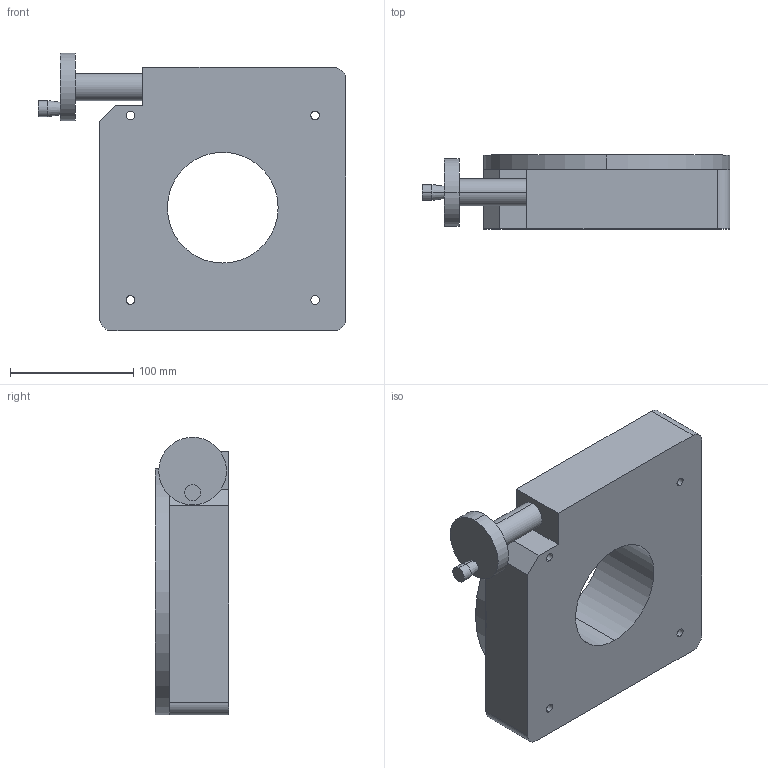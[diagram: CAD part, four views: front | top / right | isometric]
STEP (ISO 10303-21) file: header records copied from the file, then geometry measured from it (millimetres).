
FILE_DESCRIPTION (( 'STEP AP203' ), '1' );
FILE_NAME ('PSD110-200（手动）.STEP', '2025-10-24T03:50:12', ( '' ), ( '' ), 'SwSTEP 2.0', 'SolidWorks 2023', '' );
FILE_SCHEMA (( 'CONFIG_CONTROL_DESIGN' ));
Length unit declared in the file: millimetre
Products named in the file (1): PSD110-200（手动）
Bounding box: 250 x 60 x 225.5 mm (x, y, z)
Volume: 2015253.5 mm3; surface area: 159391.6 mm2
Topology: 1 solids, 1 shells, 393 faces, 1018 edges, 610 vertices
Faces by surface type: plane 126, cylinder 109, cone 82, bspline 76
Entity records: 14543 total; most frequent: CARTESIAN_POINT 5634, ORIENTED_EDGE 1876, DIRECTION 1644, EDGE_CURVE 938, VERTEX_POINT 610, LINE 564, VECTOR 564, AXIS2_PLACEMENT_3D 540
